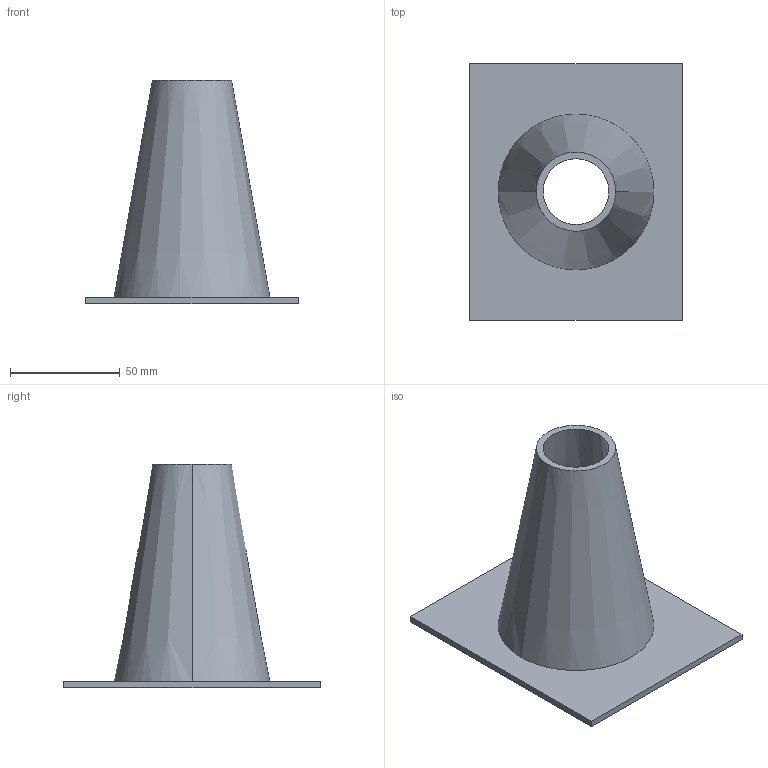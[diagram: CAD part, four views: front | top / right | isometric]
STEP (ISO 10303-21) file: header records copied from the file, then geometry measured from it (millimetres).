
FILE_DESCRIPTION(('CATIA V5 STEP Exchange'),'2;1');
FILE_NAME('C:\_Andres\UNIVERSIDAD\IQS\ASIGNATURAS\DAO\EXF\EXF-15161c\1original\Ferrer_Costa_Ej08-ensambla_v7.stp','2016-03-04T21:37:15+00:00',('none'),('none'),'CATIA Version 5 Release 20 SP 1 (IN-10)','CATIA V5 STEP AP203','none');
FILE_SCHEMA(('CONFIG_CONTROL_DESIGN'));
Length unit declared in the file: millimetre
Products named in the file (1): Ferrer_Costa_Ej08-ensambla_v7
Bounding box: 97 x 117 x 102 mm (x, y, z)
Volume: 71804.5 mm3; surface area: 49445.7 mm2
Topology: 1 solids, 1 shells, 11 faces, 24 edges, 16 vertices
Faces by surface type: plane 7, cone 4
Entity records: 414 total; most frequent: CARTESIAN_POINT 127, ORIENTED_EDGE 48, DIRECTION 44, EDGE_CURVE 24, AXIS2_PLACEMENT_3D 17, VECTOR 16, LINE 16, VERTEX_POINT 16
